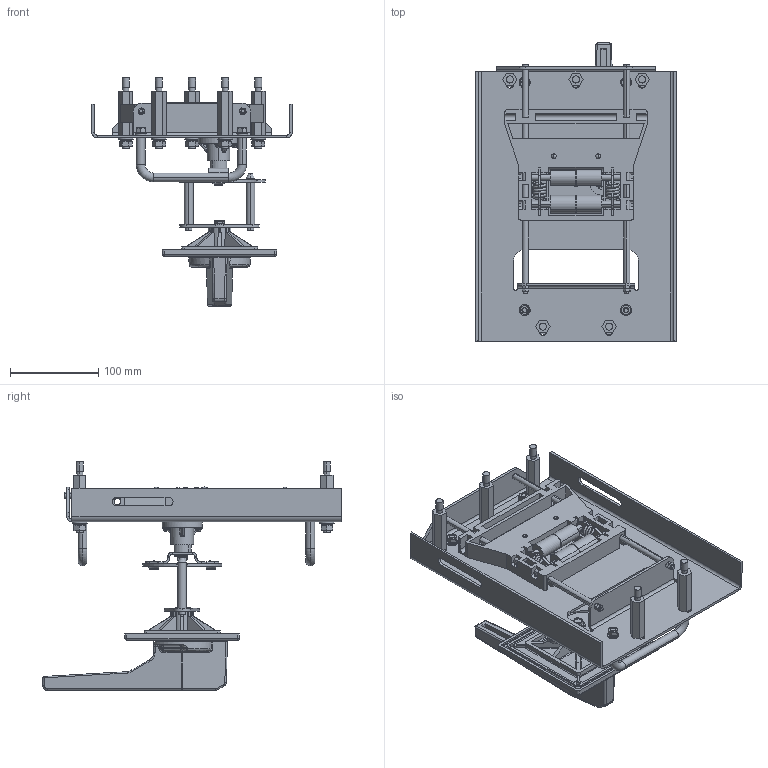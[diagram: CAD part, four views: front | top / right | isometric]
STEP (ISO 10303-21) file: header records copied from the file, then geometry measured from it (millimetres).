
FILE_DESCRIPTION (( 'STEP AP214' ), '1' );
FILE_NAME ('臍55-41 唒籦鍣砎魤鍱.STEP', '2015-06-18T10:54:59', ( 'admin' ), ( '' ), 'SwSTEP 2.0', 'SolidWorks 2012', '' );
FILE_SCHEMA (( 'AUTOMOTIVE_DESIGN' ));
Length unit declared in the file: millimetre
Products named in the file (1): 臍55-41 唒籦鍣砎魤鍱
Bounding box: 227 x 338.05 x 258.85 mm (x, y, z)
Volume: 888873.7 mm3; surface area: 489630.1 mm2
Topology: 95 solids, 95 shells, 2270 faces, 5539 edges, 3470 vertices
Faces by surface type: plane 963, cylinder 870, cone 235, bspline 99, torus 79, sphere 24
Entity records: 103422 total; most frequent: CARTESIAN_POINT 24239, DIRECTION 11186, ORIENTED_EDGE 11034, EDGE_CURVE 5517, AXIS2_PLACEMENT_3D 4281, VERTEX_POINT 3468, LINE 2624, VECTOR 2624
